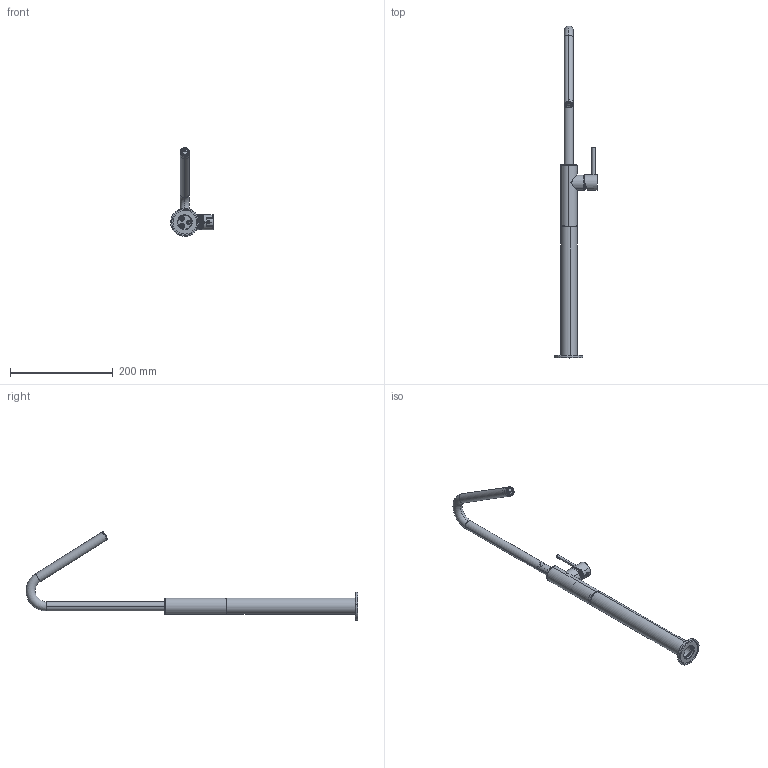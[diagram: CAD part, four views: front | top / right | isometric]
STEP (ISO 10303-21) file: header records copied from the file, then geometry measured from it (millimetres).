
FILE_DESCRIPTION (( 'STEP AP203' ), '1' );
FILE_NAME ('MME53.STEP', '2025-02-07T07:49:49', ( '' ), ( '' ), 'SwSTEP 2.0', 'SolidWorks 2024', '' );
FILE_SCHEMA (( 'CONFIG_CONTROL_DESIGN' ));
Length unit declared in the file: millimetre
Products named in the file (21): C21.0649.00.0; C47.00.0111.00; C47.00.0023.01; C12.00.0004; C19.11.0029.43; C12.00.0054; C24.0372.00.1; C24.0120.00.1; C24.0370.00.3; C24.2075.00.0; C24.0119.00.2; C11.14.0019; MME53; C24.0699.00.0; C24.0029.00.1; C11.14.0014; C23.0824.01; C24.0093.00.2; C21.0648.00.1; C10.00.0013; C13.00.0043
Assembly tree (22 placements, depth 3):
  MME53
    C11.14.0014
    C24.0093.00.2
    C19.11.0029.43
      C24.0370.00.3
      C24.2075.00.0
    C24.0029.00.1
    C24.0372.00.1
    C24.0119.00.2
    C24.0120.00.1
    C10.00.0013
    C23.0824.01
    C24.0699.00.0
    C21.0648.00.1
    C21.0649.00.0  x2
    C12.00.0054  x2
    C47.00.0023.01
    C11.14.0019
    C12.00.0004
    C13.00.0043
    C47.00.0111.00
Bounding box: 82.99 x 645.96 x 172.69 mm (x, y, z)
Volume: 170211.1 mm3; surface area: 160943.5 mm2
Topology: 20 solids, 30 shells, 1150 faces, 3140 edges, 2037 vertices
Faces by surface type: cylinder 436, plane 366, cone 196, bspline 86, torus 66
Entity records: 42799 total; most frequent: CARTESIAN_POINT 13344, ORIENTED_EDGE 5604, DIRECTION 5574, EDGE_CURVE 3032, AXIS2_PLACEMENT_3D 2190, VERTEX_POINT 1989, EDGE_LOOP 1225, LINE 1194
